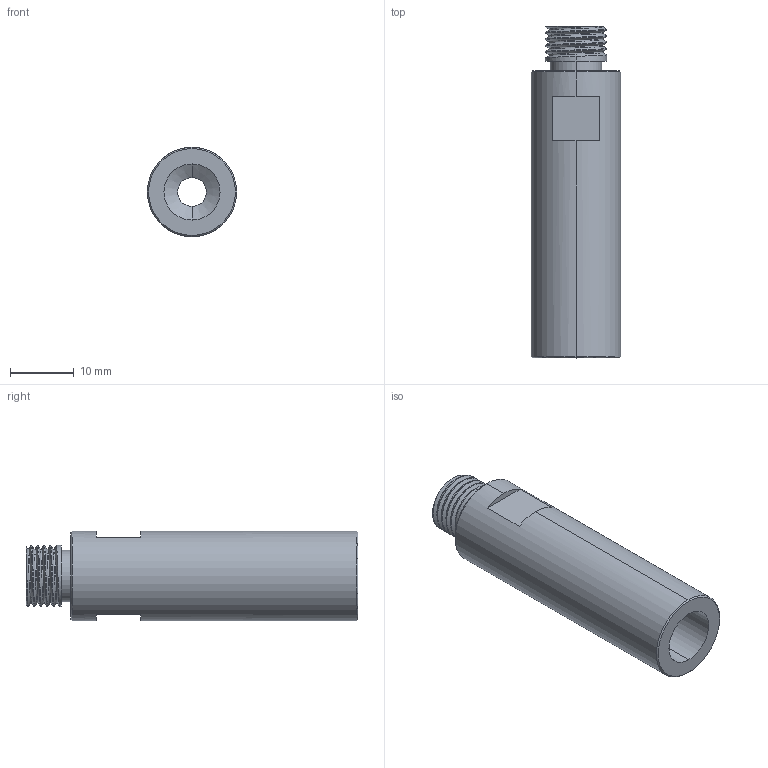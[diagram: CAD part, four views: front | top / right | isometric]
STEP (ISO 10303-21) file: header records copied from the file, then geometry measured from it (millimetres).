
FILE_DESCRIPTION (( 'STEP AP203' ), '1' );
FILE_NAME ('SMBY1452G18.STEP', '2024-10-11T06:05:59', ( '微软用户' ), ( '微软中国' ), 'SwSTEP 2.0', 'SolidWorks 2018', '' );
FILE_SCHEMA (( 'CONFIG_CONTROL_DESIGN' ));
Length unit declared in the file: millimetre
Products named in the file (1): SMBY1452G18
Bounding box: 14 x 52 x 14 mm (x, y, z)
Volume: 4811.8 mm3; surface area: 3827.9 mm2
Topology: 1 solids, 1 shells, 47 faces, 112 edges, 70 vertices
Faces by surface type: cylinder 22, plane 12, cone 6, torus 4, bspline 3
Entity records: 2701 total; most frequent: CARTESIAN_POINT 1582, ORIENTED_EDGE 224, DIRECTION 219, EDGE_CURVE 112, AXIS2_PLACEMENT_3D 89, VERTEX_POINT 70, EDGE_LOOP 52, ADVANCED_FACE 47
